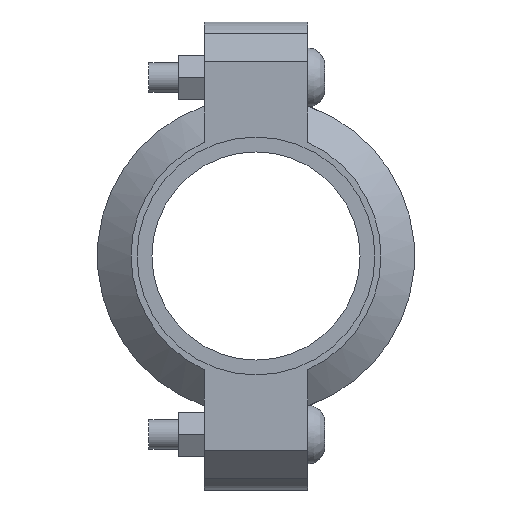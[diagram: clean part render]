
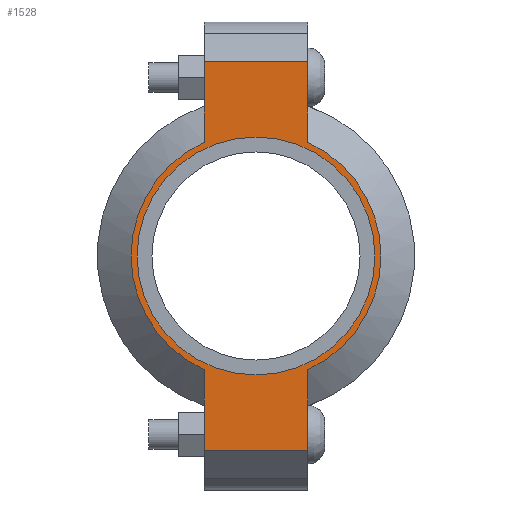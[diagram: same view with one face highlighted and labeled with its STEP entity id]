
A CAD part, left-side view. The second image highlights one B-rep face of the part: STEP entity #1528.
In plain terms, the highlighted planar face has unit normal (-1, 0, 0) as drawn and (0, 0, 1) by its records, which use the part's own axes.
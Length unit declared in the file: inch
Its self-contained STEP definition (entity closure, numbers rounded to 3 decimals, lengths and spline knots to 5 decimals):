
#134=LINE('',#2681,#229);
#147=LINE('',#2725,#242);
#152=LINE('',#2749,#247);
#159=LINE('',#2767,#254);
#166=LINE('',#2792,#261);
#167=LINE('',#2795,#262);
#229=VECTOR('',#2167,0.3937);
#242=VECTOR('',#2196,0.3937);
#247=VECTOR('',#2207,0.3937);
#254=VECTOR('',#2224,0.3937);
#261=VECTOR('',#2245,0.3937);
#262=VECTOR('',#2250,0.3937);
#314=FACE_BOUND('',#492,.T.);
#387=FACE_OUTER_BOUND('',#491,.T.);
#491=EDGE_LOOP('',(#1283,#1284,#1285,#1286,#1287,#1288,#1289,#1290));
#492=EDGE_LOOP('',(#1291));
#561=CIRCLE('',#1745,1.5);
#589=CIRCLE('',#1808,1.575);
#590=CIRCLE('',#1809,1.575);
#653=VERTEX_POINT('',#2469);
#696=VERTEX_POINT('',#2676);
#697=VERTEX_POINT('',#2680);
#713=VERTEX_POINT('',#2722);
#714=VERTEX_POINT('',#2724);
#720=VERTEX_POINT('',#2744);
#721=VERTEX_POINT('',#2748);
#726=VERTEX_POINT('',#2764);
#727=VERTEX_POINT('',#2766);
#811=EDGE_CURVE('',#653,#653,#561,.T.);
#873=EDGE_CURVE('',#697,#696,#134,.T.);
#893=EDGE_CURVE('',#714,#713,#147,.T.);
#902=EDGE_CURVE('',#721,#720,#152,.T.);
#911=EDGE_CURVE('',#727,#726,#159,.T.);
#923=EDGE_CURVE('',#721,#713,#166,.T.);
#924=EDGE_CURVE('',#720,#727,#589,.T.);
#925=EDGE_CURVE('',#697,#726,#167,.T.);
#926=EDGE_CURVE('',#696,#714,#590,.T.);
#1283=ORIENTED_EDGE('',*,*,#923,.F.);
#1284=ORIENTED_EDGE('',*,*,#902,.T.);
#1285=ORIENTED_EDGE('',*,*,#924,.T.);
#1286=ORIENTED_EDGE('',*,*,#911,.T.);
#1287=ORIENTED_EDGE('',*,*,#925,.F.);
#1288=ORIENTED_EDGE('',*,*,#873,.T.);
#1289=ORIENTED_EDGE('',*,*,#926,.T.);
#1290=ORIENTED_EDGE('',*,*,#893,.T.);
#1291=ORIENTED_EDGE('',*,*,#811,.T.);
#1369=PLANE('',#1807);
#1528=ADVANCED_FACE('',(#387,#314),#1369,.T.);
#1745=AXIS2_PLACEMENT_3D('',#2471,#2047,#2048);
#1807=AXIS2_PLACEMENT_3D('',#2793,#2246,#2247);
#1808=AXIS2_PLACEMENT_3D('',#2794,#2248,#2249);
#1809=AXIS2_PLACEMENT_3D('',#2796,#2251,#2252);
#2047=DIRECTION('center_axis',(0.,0.,-1.));
#2048=DIRECTION('ref_axis',(-1.,0.,0.));
#2167=DIRECTION('',(-1.,0.,0.));
#2196=DIRECTION('',(-1.,0.,0.));
#2207=DIRECTION('',(1.,0.,0.));
#2224=DIRECTION('',(1.,0.,0.));
#2245=DIRECTION('',(0.,1.,0.));
#2246=DIRECTION('center_axis',(0.,0.,1.));
#2247=DIRECTION('ref_axis',(1.,0.,0.));
#2248=DIRECTION('center_axis',(0.,0.,1.));
#2249=DIRECTION('ref_axis',(-1.,0.,0.));
#2250=DIRECTION('',(0.,-1.,0.));
#2251=DIRECTION('center_axis',(0.,0.,1.));
#2252=DIRECTION('ref_axis',(-1.,0.,0.));
#2469=CARTESIAN_POINT('',(1.5,0.,0.94));
#2471=CARTESIAN_POINT('Origin',(0.,0.,0.94));
#2676=CARTESIAN_POINT('',(1.43462,0.65,0.94));
#2680=CARTESIAN_POINT('',(2.45,0.65,0.94));
#2681=CARTESIAN_POINT('',(-2.95,0.65,0.94));
#2722=CARTESIAN_POINT('',(-2.45,0.65,0.94));
#2724=CARTESIAN_POINT('',(-1.43462,0.65,0.94));
#2725=CARTESIAN_POINT('',(-2.95,0.65,0.94));
#2744=CARTESIAN_POINT('',(-1.43462,-0.65,0.94));
#2748=CARTESIAN_POINT('',(-2.45,-0.65,0.94));
#2749=CARTESIAN_POINT('',(2.95,-0.65,0.94));
#2764=CARTESIAN_POINT('',(2.45,-0.65,0.94));
#2766=CARTESIAN_POINT('',(1.43462,-0.65,0.94));
#2767=CARTESIAN_POINT('',(2.95,-0.65,0.94));
#2792=CARTESIAN_POINT('',(-2.45,0.325,0.94));
#2793=CARTESIAN_POINT('Origin',(0.,0.,
0.94));
#2794=CARTESIAN_POINT('Origin',(0.,0.,0.94));
#2795=CARTESIAN_POINT('',(2.45,-0.325,0.94));
#2796=CARTESIAN_POINT('Origin',(0.,0.,0.94));
